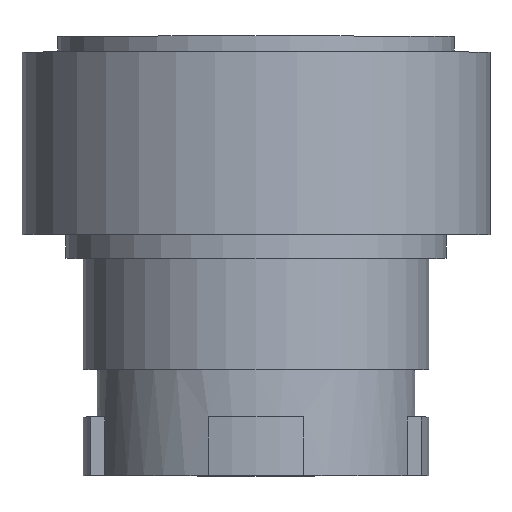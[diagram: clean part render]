
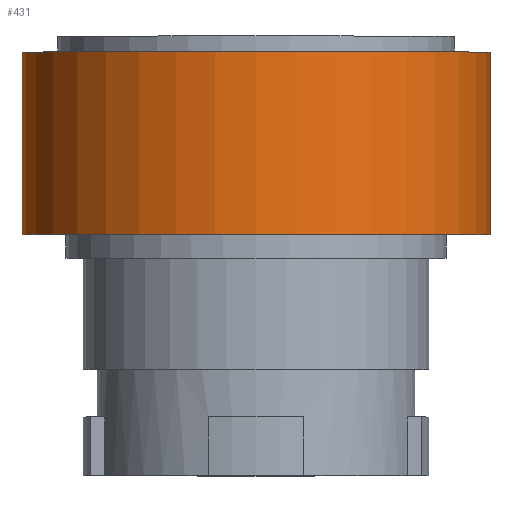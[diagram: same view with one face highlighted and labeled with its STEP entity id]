
A CAD part, top view. The second image highlights one B-rep face of the part: STEP entity #431.
In plain terms, the highlighted cylindrical face has radius 14.75 mm (diameter 29.5 mm), a partial arc.
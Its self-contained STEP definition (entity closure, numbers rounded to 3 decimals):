
#18 = CARTESIAN_POINT ( 'NONE',  ( 0., 26.7, 0. ) ) ;
#83 = DIRECTION ( 'NONE',  ( 0., 1., 0. ) ) ;
#100 = CYLINDRICAL_SURFACE ( 'NONE', #159, 14.75 ) ;
#123 = DIRECTION ( 'NONE',  ( -1., 0., 0. ) ) ;
#138 = ORIENTED_EDGE ( 'NONE', *, *, #229, .T. ) ;
#159 = AXIS2_PLACEMENT_3D ( 'NONE', #262, #974, #1273 ) ;
#229 = EDGE_CURVE ( 'NONE', #784, #578, #1064, .T. ) ;
#256 = CARTESIAN_POINT ( 'NONE',  ( 0., 15.2, 0. ) ) ;
#262 = CARTESIAN_POINT ( 'NONE',  ( 0., 15.2, 0. ) ) ;
#363 = DIRECTION ( 'NONE',  ( -1., 0., 0. ) ) ;
#380 = AXIS2_PLACEMENT_3D ( 'NONE', #256, #999, #363 ) ;
#431 = ADVANCED_FACE ( 'NONE', ( #1046 ), #100, .T. ) ;
#500 = CIRCLE ( 'NONE', #938, 14.75 ) ;
#520 = EDGE_CURVE ( 'NONE', #1363, #578, #500, .T. ) ;
#558 = CARTESIAN_POINT ( 'NONE',  ( 14.75, 15.2, 0. ) ) ;
#578 = VERTEX_POINT ( 'NONE', #1083 ) ;
#592 = CARTESIAN_POINT ( 'NONE',  ( 14.75, 15.2, 0. ) ) ;
#597 = VECTOR ( 'NONE', #83, 1000. ) ;
#646 = CIRCLE ( 'NONE', #380, 14.75 ) ;
#655 = EDGE_LOOP ( 'NONE', ( #1380, #138, #1189, #1364 ) ) ;
#719 = VERTEX_POINT ( 'NONE', #1329 ) ;
#746 = DIRECTION ( 'NONE',  ( 0., 1., 0. ) ) ;
#784 = VERTEX_POINT ( 'NONE', #592 ) ;
#808 = CARTESIAN_POINT ( 'NONE',  ( -14.75, 15.2, 0. ) ) ;
#836 = LINE ( 'NONE', #808, #597 ) ;
#870 = EDGE_CURVE ( 'NONE', #719, #1363, #836, .T. ) ;
#938 = AXIS2_PLACEMENT_3D ( 'NONE', #18, #746, #123 ) ;
#974 = DIRECTION ( 'NONE',  ( 0., 1., 0. ) ) ;
#999 = DIRECTION ( 'NONE',  ( 0., 1., 0. ) ) ;
#1046 = FACE_OUTER_BOUND ( 'NONE', #655, .T. ) ;
#1064 = LINE ( 'NONE', #558, #1322 ) ;
#1083 = CARTESIAN_POINT ( 'NONE',  ( 14.75, 26.7, 0. ) ) ;
#1097 = DIRECTION ( 'NONE',  ( 0., 1., 0. ) ) ;
#1189 = ORIENTED_EDGE ( 'NONE', *, *, #520, .F. ) ;
#1213 = CARTESIAN_POINT ( 'NONE',  ( -14.75, 26.7, 0. ) ) ;
#1273 = DIRECTION ( 'NONE',  ( -1., 0., 0. ) ) ;
#1322 = VECTOR ( 'NONE', #1097, 1000. ) ;
#1329 = CARTESIAN_POINT ( 'NONE',  ( -14.75, 15.2, 0. ) ) ;
#1333 = EDGE_CURVE ( 'NONE', #719, #784, #646, .T. ) ;
#1363 = VERTEX_POINT ( 'NONE', #1213 ) ;
#1364 = ORIENTED_EDGE ( 'NONE', *, *, #870, .F. ) ;
#1380 = ORIENTED_EDGE ( 'NONE', *, *, #1333, .T. ) ;
